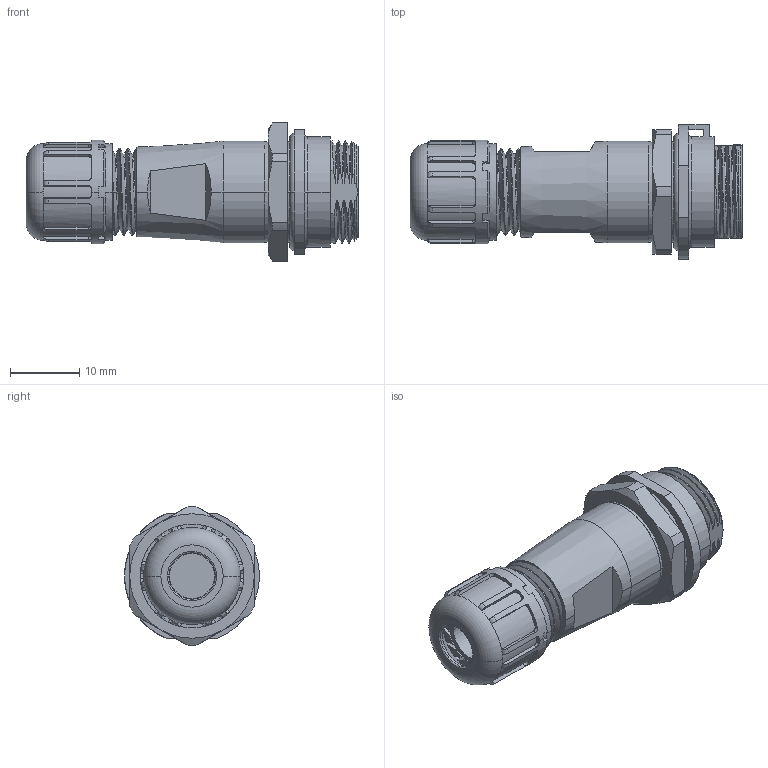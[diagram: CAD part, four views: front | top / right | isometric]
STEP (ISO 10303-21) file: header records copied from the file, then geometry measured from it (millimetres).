
FILE_DESCRIPTION((''),'2;1');
FILE_NAME('SP1311-S5','2020-02-27T',('Administrator'),(''),'CREO PARAMETRIC BY PTC INC, 2016130','CREO PARAMETRIC BY PTC INC, 2016130','');
FILE_SCHEMA(('CONFIG_CONTROL_DESIGN'));
Length unit declared in the file: millimetre
Products named in the file (1): SP1311-S5
Bounding box: 48 x 19.5 x 19.99 mm (x, y, z)
Volume: 6635.8 mm3; surface area: 6104.1 mm2
Topology: 1 solids, 1 shells, 447 faces, 1351 edges, 895 vertices
Faces by surface type: plane 186, cylinder 154, torus 44, cone 38, bspline 25
Entity records: 21076 total; most frequent: CARTESIAN_POINT 9052, ORIENTED_EDGE 2702, DIRECTION 2361, EDGE_CURVE 1351, AXIS2_PLACEMENT_3D 913, VERTEX_POINT 895, VECTOR 535, LINE 535
